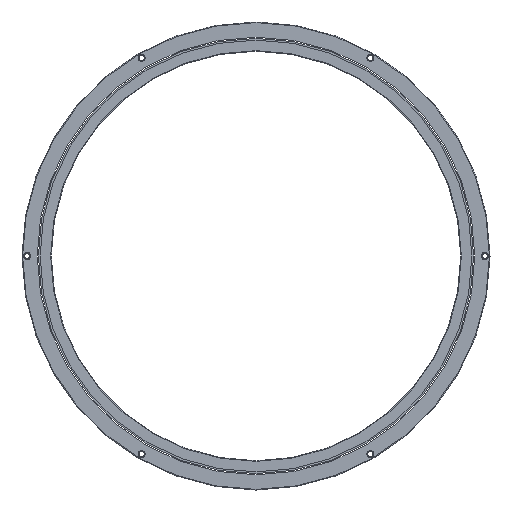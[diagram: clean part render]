
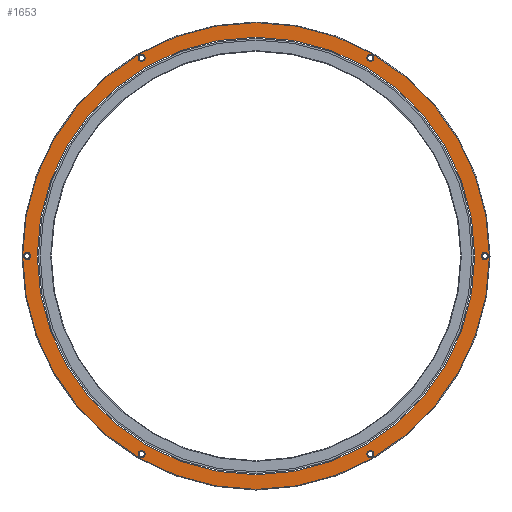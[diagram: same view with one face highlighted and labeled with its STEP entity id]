
A CAD part, front view. The second image highlights one B-rep face of the part: STEP entity #1653.
In plain terms, the highlighted planar face has unit normal (0, -1, 0).
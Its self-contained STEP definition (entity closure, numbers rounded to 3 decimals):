
#371=CARTESIAN_POINT('',(0.,0.,0.));
#372=DIRECTION('',(0.,-1.,0.));
#373=DIRECTION('',(-1.,0.,0.));
#374=AXIS2_PLACEMENT_3D('',#371,#372,#373);
#376=CARTESIAN_POINT('',(0.,0.,0.));
#377=DIRECTION('',(0.,1.,0.));
#378=DIRECTION('',(-1.,0.,0.));
#379=AXIS2_PLACEMENT_3D('',#376,#377,#378);
#381=CARTESIAN_POINT('',(-195.5,0.,0.));
#382=DIRECTION('',(0.,1.,0.));
#383=DIRECTION('',(1.,0.,0.));
#384=AXIS2_PLACEMENT_3D('',#381,#382,#383);
#386=CARTESIAN_POINT('',(-195.5,0.,0.));
#387=DIRECTION('',(0.,1.,0.));
#388=DIRECTION('',(-1.,0.,0.));
#389=AXIS2_PLACEMENT_3D('',#386,#387,#388);
#391=CARTESIAN_POINT('',(-97.75,0.,169.308));
#392=DIRECTION('',(0.,1.,0.));
#393=DIRECTION('',(0.5,0.,-0.866));
#394=AXIS2_PLACEMENT_3D('',#391,#392,#393);
#396=CARTESIAN_POINT('',(-97.75,0.,169.308));
#397=DIRECTION('',(0.,1.,0.));
#398=DIRECTION('',(-0.5,0.,0.866));
#399=AXIS2_PLACEMENT_3D('',#396,#397,#398);
#401=CARTESIAN_POINT('',(97.75,0.,169.308));
#402=DIRECTION('',(0.,1.,0.));
#403=DIRECTION('',(-0.5,0.,-0.866));
#404=AXIS2_PLACEMENT_3D('',#401,#402,#403);
#406=CARTESIAN_POINT('',(97.75,0.,169.308));
#407=DIRECTION('',(0.,1.,0.));
#408=DIRECTION('',(0.5,0.,0.866));
#409=AXIS2_PLACEMENT_3D('',#406,#407,#408);
#411=CARTESIAN_POINT('',(195.5,0.,0.));
#412=DIRECTION('',(0.,1.,0.));
#413=DIRECTION('',(-1.,0.,0.));
#414=AXIS2_PLACEMENT_3D('',#411,#412,#413);
#416=CARTESIAN_POINT('',(195.5,0.,0.));
#417=DIRECTION('',(0.,1.,0.));
#418=DIRECTION('',(1.,0.,0.));
#419=AXIS2_PLACEMENT_3D('',#416,#417,#418);
#421=CARTESIAN_POINT('',(97.75,0.,-169.308));
#422=DIRECTION('',(0.,1.,0.));
#423=DIRECTION('',(-0.5,0.,0.866));
#424=AXIS2_PLACEMENT_3D('',#421,#422,#423);
#426=CARTESIAN_POINT('',(97.75,0.,-169.308));
#427=DIRECTION('',(0.,1.,0.));
#428=DIRECTION('',(0.5,0.,-0.866));
#429=AXIS2_PLACEMENT_3D('',#426,#427,#428);
#431=CARTESIAN_POINT('',(-97.75,0.,-169.308));
#432=DIRECTION('',(0.,1.,0.));
#433=DIRECTION('',(0.5,0.,0.866));
#434=AXIS2_PLACEMENT_3D('',#431,#432,#433);
#436=CARTESIAN_POINT('',(-97.75,0.,-169.308));
#437=DIRECTION('',(0.,1.,0.));
#438=DIRECTION('',(-0.5,0.,-0.866));
#439=AXIS2_PLACEMENT_3D('',#436,#437,#438);
#441=CARTESIAN_POINT('',(0.,0.,0.));
#442=DIRECTION('',(0.,1.,0.));
#443=DIRECTION('',(-1.,0.,0.));
#444=AXIS2_PLACEMENT_3D('',#441,#442,#443);
#446=CARTESIAN_POINT('',(0.,0.,0.));
#447=DIRECTION('',(0.,1.,0.));
#448=DIRECTION('',(1.,0.,0.));
#449=AXIS2_PLACEMENT_3D('',#446,#447,#448);
#919=CARTESIAN_POINT('',(-192.5,0.,0.));
#920=VERTEX_POINT('',#919);
#921=CARTESIAN_POINT('',(-198.5,0.,0.));
#922=VERTEX_POINT('',#921);
#931=CARTESIAN_POINT('',(-96.25,0.,166.71));
#932=VERTEX_POINT('',#931);
#933=CARTESIAN_POINT('',(-99.25,0.,171.906));
#934=VERTEX_POINT('',#933);
#943=CARTESIAN_POINT('',(96.25,0.,166.71));
#944=VERTEX_POINT('',#943);
#945=CARTESIAN_POINT('',(99.25,0.,171.906));
#946=VERTEX_POINT('',#945);
#955=CARTESIAN_POINT('',(192.5,0.,0.));
#956=VERTEX_POINT('',#955);
#957=CARTESIAN_POINT('',(198.5,0.,0.));
#958=VERTEX_POINT('',#957);
#976=CARTESIAN_POINT('',(-187.,0.,0.));
#978=VERTEX_POINT('',#976);
#980=CARTESIAN_POINT('',(187.,0.,0.));
#982=VERTEX_POINT('',#980);
#995=CARTESIAN_POINT('',(-199.5,0.,0.));
#996=CARTESIAN_POINT('',(199.5,0.,0.));
#997=VERTEX_POINT('',#995);
#998=VERTEX_POINT('',#996);
#1043=CARTESIAN_POINT('',(96.25,0.,-166.71));
#1044=CARTESIAN_POINT('',(99.25,0.,-171.906));
#1045=VERTEX_POINT('',#1043);
#1046=VERTEX_POINT('',#1044);
#1055=CARTESIAN_POINT('',(-96.25,0.,-166.71));
#1056=CARTESIAN_POINT('',(-99.25,0.,-171.906));
#1057=VERTEX_POINT('',#1055);
#1058=VERTEX_POINT('',#1056);
#1604=CARTESIAN_POINT('',(0.,0.,0.));
#1605=DIRECTION('',(0.,1.,0.));
#1606=DIRECTION('',(1.,0.,0.));
#1607=AXIS2_PLACEMENT_3D('',#1604,#1605,#1606);
#1608=PLANE('',#1607);
#1609=ORIENTED_EDGE('',*,*,#1090,.T.);
#1610=ORIENTED_EDGE('',*,*,#1105,.T.);
#1611=EDGE_LOOP('',(#1609,#1610));
#1612=FACE_OUTER_BOUND('',#1611,.F.);
#1614=ORIENTED_EDGE('',*,*,#1613,.F.);
#1616=ORIENTED_EDGE('',*,*,#1615,.F.);
#1617=EDGE_LOOP('',(#1614,#1616));
#1618=FACE_BOUND('',#1617,.F.);
#1620=ORIENTED_EDGE('',*,*,#1619,.F.);
#1622=ORIENTED_EDGE('',*,*,#1621,.F.);
#1623=EDGE_LOOP('',(#1620,#1622));
#1624=FACE_BOUND('',#1623,.F.);
#1626=ORIENTED_EDGE('',*,*,#1625,.F.);
#1628=ORIENTED_EDGE('',*,*,#1627,.F.);
#1629=EDGE_LOOP('',(#1626,#1628));
#1630=FACE_BOUND('',#1629,.F.);
#1632=ORIENTED_EDGE('',*,*,#1631,.F.);
#1634=ORIENTED_EDGE('',*,*,#1633,.F.);
#1635=EDGE_LOOP('',(#1632,#1634));
#1636=FACE_BOUND('',#1635,.F.);
#1638=ORIENTED_EDGE('',*,*,#1637,.F.);
#1640=ORIENTED_EDGE('',*,*,#1639,.F.);
#1641=EDGE_LOOP('',(#1638,#1640));
#1642=FACE_BOUND('',#1641,.F.);
#1644=ORIENTED_EDGE('',*,*,#1643,.F.);
#1646=ORIENTED_EDGE('',*,*,#1645,.F.);
#1647=EDGE_LOOP('',(#1644,#1646));
#1648=FACE_BOUND('',#1647,.F.);
#1649=ORIENTED_EDGE('',*,*,#1599,.T.);
#1650=ORIENTED_EDGE('',*,*,#1583,.F.);
#1651=EDGE_LOOP('',(#1649,#1650));
#1652=FACE_BOUND('',#1651,.F.);
#375=CIRCLE('',#374,187.);
#380=CIRCLE('',#379,187.);
#385=CIRCLE('',#384,3.);
#390=CIRCLE('',#389,3.);
#395=CIRCLE('',#394,3.);
#400=CIRCLE('',#399,3.);
#405=CIRCLE('',#404,3.);
#410=CIRCLE('',#409,3.);
#415=CIRCLE('',#414,3.);
#420=CIRCLE('',#419,3.);
#425=CIRCLE('',#424,3.);
#430=CIRCLE('',#429,3.);
#435=CIRCLE('',#434,3.);
#440=CIRCLE('',#439,3.);
#445=CIRCLE('',#444,199.5);
#450=CIRCLE('',#449,199.5);
#1090=EDGE_CURVE('',#997,#998,#445,.T.);
#1105=EDGE_CURVE('',#998,#997,#450,.T.);
#1583=EDGE_CURVE('',#978,#982,#380,.T.);
#1599=EDGE_CURVE('',#978,#982,#375,.T.);
#1613=EDGE_CURVE('',#920,#922,#385,.T.);
#1615=EDGE_CURVE('',#922,#920,#390,.T.);
#1619=EDGE_CURVE('',#932,#934,#395,.T.);
#1621=EDGE_CURVE('',#934,#932,#400,.T.);
#1625=EDGE_CURVE('',#944,#946,#405,.T.);
#1627=EDGE_CURVE('',#946,#944,#410,.T.);
#1631=EDGE_CURVE('',#956,#958,#415,.T.);
#1633=EDGE_CURVE('',#958,#956,#420,.T.);
#1637=EDGE_CURVE('',#1045,#1046,#425,.T.);
#1639=EDGE_CURVE('',#1046,#1045,#430,.T.);
#1643=EDGE_CURVE('',#1057,#1058,#435,.T.);
#1645=EDGE_CURVE('',#1058,#1057,#440,.T.);
#1653=ADVANCED_FACE('',(#1612,#1618,#1624,#1630,#1636,#1642,#1648,#1652),#1608,
.F.);
